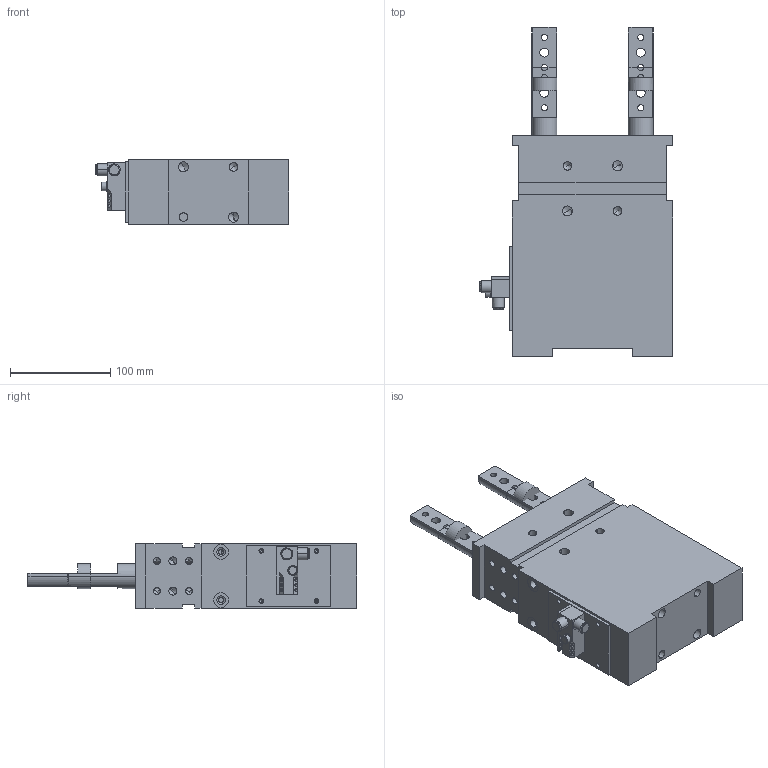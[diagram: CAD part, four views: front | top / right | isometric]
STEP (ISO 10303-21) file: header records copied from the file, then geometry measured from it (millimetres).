
FILE_DESCRIPTION(('CATIA V5 STEP Exchange'),'2;1');
FILE_NAME('G:\Konstruktion\Modelle\SZVD_50_A23_T12_TUENKERS.stp','2016-11-11T11:58:18+00:00',('none'),('none'),'CATIA Version 5 Release 19 SP 9 (IN-10)','CATIA V5 STEP AP214','none');
FILE_SCHEMA(('AUTOMOTIVE_DESIGN { 1 0 10303 214 1 1 1 1 }'));
Length unit declared in the file: millimetre
Products named in the file (1): SZVD_50_A23_T12_TUENKERS
Bounding box: 193 x 328 x 64 mm (x, y, z)
Volume: 2020063.9 mm3; surface area: 220858.1 mm2
Topology: 5 solids, 8 shells, 428 faces, 1168 edges, 743 vertices
Faces by surface type: cylinder 196, cone 110, plane 106, sphere 12, torus 4
Entity records: 15539 total; most frequent: CARTESIAN_POINT 3088, ORIENTED_EDGE 2176, DIRECTION 1463, EDGE_CURVE 1088, AXIS2_PLACEMENT_3D 790, VERTEX_POINT 743, CIRCLE 562, EDGE_LOOP 548
